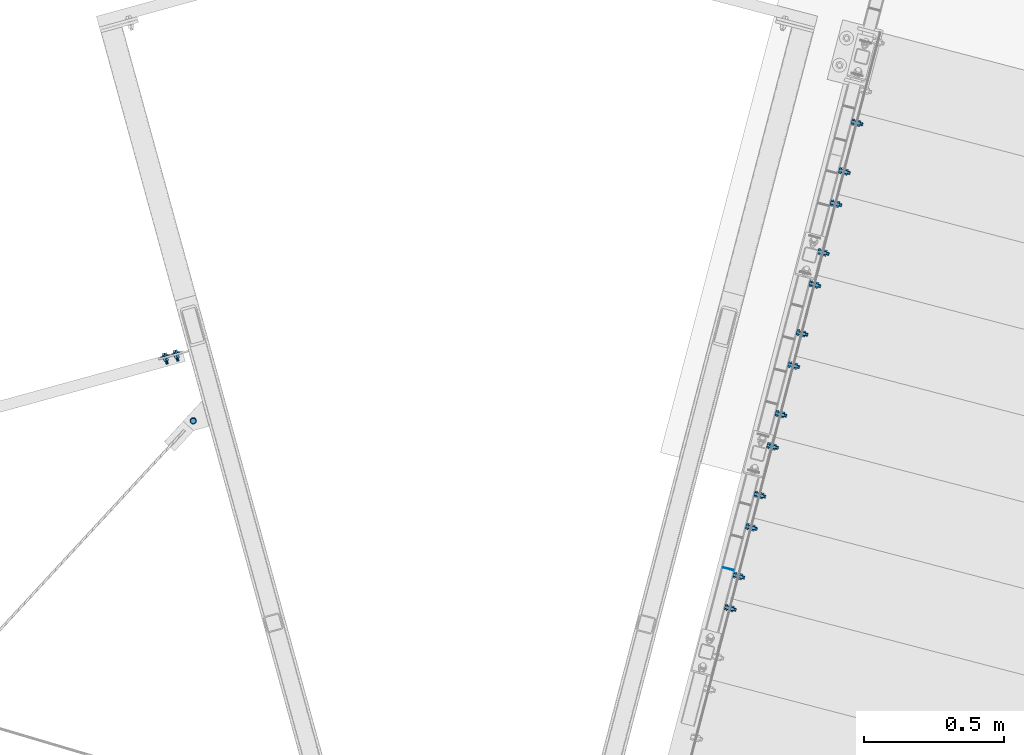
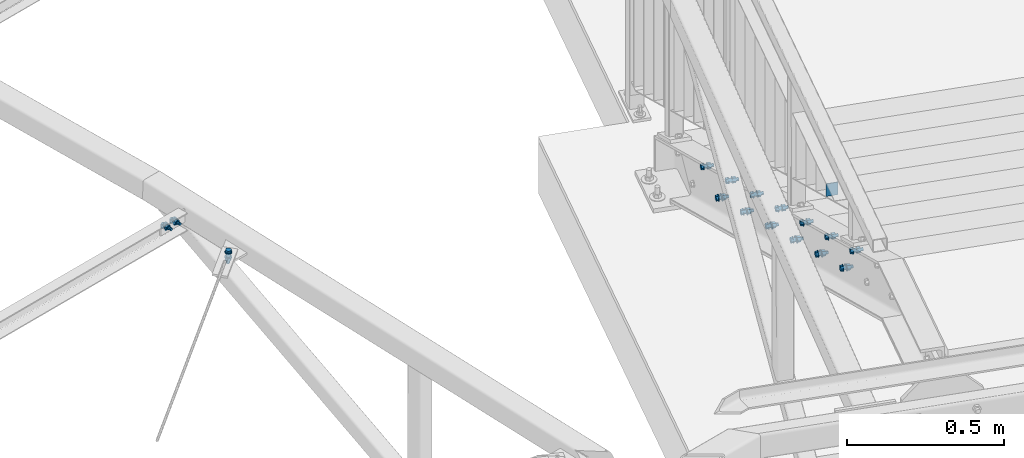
# One storey, part 161 of 169: 15 mechanical fasteners, 1 discrete accessory, 10 elements without a shape of their own.
"""IFC2X3 building model written with IfcOpenShell, lengths in millimetres."""

from ifc_helpers import new_model, si_unit, frame, frame_2d, origin_with_axes, origin_2d_with_axis, place, context, subcontext, project, spatial, polyline, circle_curve, parameter, trimmed, segment, composite_curve, circle, outline, extrude, clip, halfspace, source, transform, mapped, material, type_object, element, aggregate, save


model = new_model("IFC2X3")

# Units and contexts
model_context = context("Model", 3, precision=1e-05, world=origin_with_axes())
body_context = subcontext(model_context, "Body", "Model", "MODEL_VIEW")
ifc_project = project(units=[si_unit("LENGTHUNIT", "METRE", prefix="MILLI"), si_unit("AREAUNIT", "SQUARE_METRE"), si_unit("VOLUMEUNIT", "CUBIC_METRE"), si_unit("MASSUNIT", "GRAM", prefix="KILO"), si_unit("TIMEUNIT", "SECOND"), si_unit("PLANEANGLEUNIT", "RADIAN"), si_unit("SOLIDANGLEUNIT", "STERADIAN"), si_unit("THERMODYNAMICTEMPERATUREUNIT", "DEGREE_CELSIUS"), si_unit("LUMINOUSINTENSITYUNIT", "LUMEN")], contexts=[model_context])

# Site, building, storey
site_placement = place(None, origin_with_axes())
site = spatial("IfcSite", under=ifc_project, at=site_placement, Name="Undefined", CompositionType="ELEMENT")
building_placement = place(site_placement, origin_with_axes())
building = spatial("IfcBuilding", under=site, at=building_placement, Name="Undefined", CompositionType="ELEMENT")
storey_placement = place(building_placement, origin_with_axes())
storey = spatial("IfcBuildingStorey", under=building, at=storey_placement, Name="Undefined", CompositionType="ELEMENT", Elevation=0.0)

# Assembly, discrete accessory
assembly_1_placement = place(storey_placement, origin_with_axes())
assembly_1 = element("IfcElementAssembly", 1, at=assembly_1_placement, inside=storey, Name="Steel Assembly", AssemblyPlace="NOTDEFINED", PredefinedType="RIGID_FRAME")
ifc_material_1 = material(Name="STEEL/S235")
discrete_accessory_type_1 = type_object("IfcDiscreteAccessoryType", Name="PORĘCZ")
discrete_accessory_placement = place(assembly_1_placement, frame((-10676.179950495, 19331.5593978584, 13865.5637327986), z_axis=(-0.252628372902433, -0.967563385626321, 0.0), x_axis=(-2.54700353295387e-10, 0.0, -1.0)))
discrete_accessory = element("IfcDiscreteAccessory", 2, at=discrete_accessory_placement, type_object=discrete_accessory_type_1, material=ifc_material_1, Name="PORĘCZ", ObjectType="BL40*3", context=body_context, shape_type="Clipping", body=[
    clip(clip(extrude(outline(polyline([(46.3262382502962, -19.9999999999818), (-3.35387496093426, -19.9999999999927), (-3.35387497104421, 19.9999999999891), (46.3262382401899, 20.0), (46.3262382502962, -19.9999999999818)])), frame((1.81898940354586e-12, -1.77635442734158e-15, -1.50000000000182), z_axis=(0.0, 0.0, 1.0), x_axis=(1.0, 0.0, 0.0)), (0.0, 0.0, 1.0), 3.0), halfspace(frame((-3.3538752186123, 999.999999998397, 1.44846126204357e-08), z_axis=(1.0, 0.0, 0.0), x_axis=(-2.54700353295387e-10, 0.0, -1.0)), True)), halfspace(frame((46.6557223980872, 999.99999999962, -0.66552116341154), z_axis=(-0.89618489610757, 8.07050632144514e-16, -0.443680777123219), x_axis=(-0.443680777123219, 6.25441316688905e-11, 0.89618489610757)), True)),
])
aggregate(assembly_1, [discrete_accessory])

# Assembly, mechanical fastener
assembly_2_placement = place(storey_placement, origin_with_axes())
assembly_2 = element("IfcElementAssembly", 3, at=assembly_2_placement, inside=storey, Name="Steel Assembly", AssemblyPlace="NOTDEFINED", PredefinedType="RIGID_FRAME")
ifc_material_2 = material(Name="Undefined")
discrete_accessory_type_2 = type_object("IfcDiscreteAccessoryType", Name="Bolt assembly")
shared_shape_1 = source(origin_with_axes(), body_context, "Body", "SweptSolid", [
    extrude(circle(Radius=7.5, at=origin_2d_with_axis()), frame((0.0, -7.40000057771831, 0.0), z_axis=(0.0, 1.0, 0.0), x_axis=(1.0, 0.0, 0.0)), (0.0, 0.0, 1.0), 7.5),
    extrude(circle(Radius=7.5, at=origin_2d_with_axis()), frame((0.0, -0.100000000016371, 0.0), z_axis=(0.0, 1.0, 0.0), x_axis=(1.0, 0.0, 0.0)), (0.0, 0.0, 1.0), 3.1),
    extrude(outline(polyline([(10.39230484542, 0.0), (5.19615242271, 9.00000000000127), (-5.19615242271, 9.00000000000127), (-10.39230484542, 0.0), (-5.19615242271, -9.00000000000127), (5.19615242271, -9.00000000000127), (10.39230484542, 0.0)])), frame((0.0, -17.5000005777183, 0.0), z_axis=(0.0, 1.0, 0.0), x_axis=(1.0, 0.0, 0.0)), (0.0, 0.0, 1.0), 7.5),
    extrude(circle(Radius=6.0, at=origin_2d_with_axis()), frame((0.0, -10.0, 0.0), z_axis=(0.0, 1.0, 0.0), x_axis=(1.0, 0.0, 0.0)), (0.0, 0.0, 1.0), 35.0),
    extrude(circle(Radius=12.0, at=origin_2d_with_axis()), frame((0.0, -10.0, 0.0), z_axis=(0.0, 1.0, 0.0), x_axis=(1.0, 0.0, 0.0)), (0.0, 0.0, 1.0), 2.5),
    extrude(circle(Radius=12.0, at=origin_2d_with_axis()), frame((0.0, 2.99999999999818, 0.0), z_axis=(0.0, 1.0, 0.0), x_axis=(1.0, 0.0, 0.0)), (0.0, 0.0, 1.0), 2.5),
    extrude(outline(polyline([(10.96965511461, 0.0), (5.484827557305, 9.50000000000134), (-5.484827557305, 9.50000000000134), (-10.96965511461, 0.0), (-5.484827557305, -9.50000000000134), (5.484827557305, -9.50000000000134), (10.96965511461, 0.0)])), frame((0.0, 5.50000000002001, 0.0), z_axis=(0.0, 1.0, 0.0), x_axis=(1.0, 0.0, 0.0)), (0.0, 0.0, 1.0), 10.0),
])
mechanical_fastener_1_placement = place(assembly_2_placement, frame((-10738.5536752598, 18934.3334977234, 13705.5944414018), z_axis=(-2.54700353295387e-10, 0.0, -1.0), x_axis=(0.252628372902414, 0.967563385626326, 0.0)))
mechanical_fastener_1 = element("IfcMechanicalFastener", 4, at=mechanical_fastener_1_placement, type_object=discrete_accessory_type_2, material=ifc_material_2, Name="Bolt assembly", NominalDiameter=12.0, NominalLength=35.0, context=body_context, shape_type="MappedRepresentation", body=[
    mapped(shared_shape_1, transform((265.000000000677, 1.20053300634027e-10, 15.0))),
])
aggregate(assembly_2, [mechanical_fastener_1])

assembly_3_placement = place(storey_placement, origin_with_axes())
assembly_3 = element("IfcElementAssembly", 5, at=assembly_3_placement, inside=storey, Name="Steel Assembly", AssemblyPlace="NOTDEFINED", PredefinedType="RIGID_FRAME")
mechanical_fastener_2_placement = place(assembly_3_placement, frame((-10663.0024700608, 19223.6936318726, 13558.1828582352), z_axis=(-2.54700353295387e-10, 0.0, -1.0), x_axis=(0.252628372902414, 0.967563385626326, 0.0)))
mechanical_fastener_2 = element("IfcMechanicalFastener", 6, at=mechanical_fastener_2_placement, type_object=discrete_accessory_type_2, material=ifc_material_2, Name="Bolt assembly", NominalDiameter=12.0, NominalLength=35.0, context=body_context, shape_type="MappedRepresentation", body=[
    mapped(shared_shape_1, transform((265.000000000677, 1.20053300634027e-10, 15.0))),
])

assembly_4_placement = place(storey_placement, origin_with_axes())
assembly_4 = element("IfcElementAssembly", 7, at=assembly_4_placement, inside=storey, Name="Steel Assembly", AssemblyPlace="NOTDEFINED", PredefinedType="RIGID_FRAME")
mechanical_fastener_3_placement = place(assembly_4_placement, frame((-10587.4512648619, 19513.0537660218, 13410.7712750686), z_axis=(-2.54700353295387e-10, 0.0, -1.0), x_axis=(0.252628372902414, 0.967563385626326, 0.0)))
mechanical_fastener_3 = element("IfcMechanicalFastener", 8, at=mechanical_fastener_3_placement, type_object=discrete_accessory_type_2, material=ifc_material_2, Name="Bolt assembly", NominalDiameter=12.0, NominalLength=35.0, context=body_context, shape_type="MappedRepresentation", body=[
    mapped(shared_shape_1, transform((265.000000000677, 1.20053300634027e-10, 15.0))),
])

assembly_5_placement = place(storey_placement, origin_with_axes())
assembly_5 = element("IfcElementAssembly", 9, at=assembly_5_placement, inside=storey, Name="Steel Assembly", AssemblyPlace="NOTDEFINED", PredefinedType="RIGID_FRAME")
mechanical_fastener_4_placement = place(assembly_5_placement, frame((-10511.900059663, 19802.413900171, 13263.3596919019), z_axis=(-2.54700353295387e-10, 0.0, -1.0), x_axis=(0.252628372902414, 0.967563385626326, 0.0)))
mechanical_fastener_4 = element("IfcMechanicalFastener", 10, at=mechanical_fastener_4_placement, type_object=discrete_accessory_type_2, material=ifc_material_2, Name="Bolt assembly", NominalDiameter=12.0, NominalLength=35.0, context=body_context, shape_type="MappedRepresentation", body=[
    mapped(shared_shape_1, transform((265.000000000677, 1.20053300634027e-10, 15.0))),
])

assembly_6_placement = place(storey_placement, origin_with_axes())
assembly_6 = element("IfcElementAssembly", 11, at=assembly_6_placement, inside=storey, Name="Steel Assembly", AssemblyPlace="NOTDEFINED", PredefinedType="RIGID_FRAME")
mechanical_fastener_5_placement = place(assembly_6_placement, frame((-10436.3488544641, 20091.7740343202, 13115.9481087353), z_axis=(-2.54700353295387e-10, 0.0, -1.0), x_axis=(0.252628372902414, 0.967563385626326, 0.0)))
mechanical_fastener_5 = element("IfcMechanicalFastener", 12, at=mechanical_fastener_5_placement, type_object=discrete_accessory_type_2, material=ifc_material_2, Name="Bolt assembly", NominalDiameter=12.0, NominalLength=35.0, context=body_context, shape_type="MappedRepresentation", body=[
    mapped(shared_shape_1, transform((265.000000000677, 1.20053300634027e-10, 15.0))),
])

assembly_7_placement = place(storey_placement, origin_with_axes())
assembly_7 = element("IfcElementAssembly", 13, at=assembly_7_placement, inside=storey, Name="Steel Assembly", AssemblyPlace="NOTDEFINED", PredefinedType="RIGID_FRAME")
mechanical_fastener_6_placement = place(assembly_7_placement, frame((-10360.7976492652, 20381.1341684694, 12968.5365255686), z_axis=(-2.54700353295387e-10, 0.0, -1.0), x_axis=(0.252628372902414, 0.967563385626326, 0.0)))
mechanical_fastener_6 = element("IfcMechanicalFastener", 14, at=mechanical_fastener_6_placement, type_object=discrete_accessory_type_2, material=ifc_material_2, Name="Bolt assembly", NominalDiameter=12.0, NominalLength=35.0, context=body_context, shape_type="MappedRepresentation", body=[
    mapped(shared_shape_1, transform((265.000000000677, 1.20053300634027e-10, 15.0))),
])

assembly_8_placement = place(storey_placement, origin_with_axes())
assembly_8 = element("IfcElementAssembly", 15, at=assembly_8_placement, inside=storey, Name="Steel Assembly", AssemblyPlace="NOTDEFINED", PredefinedType="RIGID_FRAME")
mechanical_fastener_7_placement = place(assembly_8_placement, frame((-10285.2464440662, 20670.4943026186, 12821.124942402), z_axis=(-2.54700353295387e-10, 0.0, -1.0), x_axis=(0.252628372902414, 0.967563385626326, 0.0)))
mechanical_fastener_7 = element("IfcMechanicalFastener", 16, at=mechanical_fastener_7_placement, type_object=discrete_accessory_type_2, material=ifc_material_2, Name="Bolt assembly", NominalDiameter=12.0, NominalLength=35.0, context=body_context, shape_type="MappedRepresentation", body=[
    mapped(shared_shape_1, transform((265.000000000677, 1.20053300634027e-10, 15.0))),
])

# Mechanical fastener
shared_shape_2 = source(origin_with_axes(), body_context, "Body", "SweptSolid", [
    extrude(circle(Radius=7.5, at=origin_2d_with_axis()), frame((0.0, -7.40000057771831, 0.0), z_axis=(0.0, 1.0, 0.0), x_axis=(1.0, 0.0, 0.0)), (0.0, 0.0, 1.0), 7.5),
    extrude(outline(composite_curve([segment(polyline([(-10.0, 7.5), (10.0, 7.5)]), True, "CONTINUOUS"), segment(trimmed(circle_curve(frame_2d((10.0, 0.0), x_axis=(0.0, 1.0)), 7.5), [parameter(0.0)], [parameter(3.14159265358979)], False, "PARAMETER"), True, "CONTINUOUS"), segment(polyline([(10.0, -7.5), (-10.0, -7.5)]), True, "CONTINUOUS"), segment(trimmed(circle_curve(frame_2d((-10.0, 0.0), x_axis=(0.0, -1.0)), 7.5), [parameter(0.0)], [parameter(3.14159265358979)], False, "PARAMETER"), True, "DISCONTINUOUS")], self_intersect=False)), frame((0.0, -0.100000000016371, 0.0), z_axis=(0.0, 1.0, 0.0), x_axis=(1.0, 0.0, 0.0)), (0.0, 0.0, 1.0), 3.1),
    extrude(outline(polyline([(10.39230484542, 0.0), (5.19615242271, 9.00000000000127), (-5.19615242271, 9.00000000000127), (-10.39230484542, 0.0), (-5.19615242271, -9.00000000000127), (5.19615242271, -9.00000000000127), (10.39230484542, 0.0)])), frame((0.0, -17.5000005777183, 0.0), z_axis=(0.0, 1.0, 0.0), x_axis=(1.0, 0.0, 0.0)), (0.0, 0.0, 1.0), 7.5),
    extrude(circle(Radius=6.0, at=origin_2d_with_axis()), frame((0.0, -10.0, 0.0), z_axis=(0.0, 1.0, 0.0), x_axis=(1.0, 0.0, 0.0)), (0.0, 0.0, 1.0), 35.0),
    extrude(circle(Radius=12.0, at=origin_2d_with_axis()), frame((0.0, -10.0, 0.0), z_axis=(0.0, 1.0, 0.0), x_axis=(1.0, 0.0, 0.0)), (0.0, 0.0, 1.0), 2.5),
    extrude(circle(Radius=12.0, at=origin_2d_with_axis()), frame((0.0, 2.99999999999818, 0.0), z_axis=(0.0, 1.0, 0.0), x_axis=(1.0, 0.0, 0.0)), (0.0, 0.0, 1.0), 2.5),
    extrude(outline(polyline([(10.96965511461, 0.0), (5.484827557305, 9.50000000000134), (-5.484827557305, 9.50000000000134), (-10.96965511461, 0.0), (-5.484827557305, -9.50000000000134), (5.484827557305, -9.50000000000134), (10.96965511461, 0.0)])), frame((0.0, 5.50000000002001, 0.0), z_axis=(0.0, 1.0, 0.0), x_axis=(1.0, 0.0, 0.0)), (0.0, 0.0, 1.0), 10.0),
])
mechanical_fastener_8_placement = place(assembly_3_placement, frame((-10663.0024700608, 19223.6936318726, 13558.1828582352), z_axis=(-2.54700353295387e-10, 0.0, -1.0), x_axis=(0.252628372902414, 0.967563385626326, 0.0)))
mechanical_fastener_8 = element("IfcMechanicalFastener", 17, at=mechanical_fastener_8_placement, type_object=discrete_accessory_type_2, material=ifc_material_2, Name="Bolt assembly", NominalDiameter=12.0, NominalLength=35.0, context=body_context, shape_type="MappedRepresentation", body=[
    mapped(shared_shape_2, transform((85.0000000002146, 3.63797880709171e-11, 15.0))),
])

aggregate(assembly_3, [mechanical_fastener_8, mechanical_fastener_2])

shared_shape_3 = source(origin_with_axes(), body_context, "Body", "SweptSolid", [
    extrude(circle(Radius=7.5, at=origin_2d_with_axis()), frame((0.0, -7.40000057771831, 0.0), z_axis=(0.0, 1.0, 0.0), x_axis=(1.0, 0.0, 0.0)), (0.0, 0.0, 1.0), 7.5),
    extrude(outline(composite_curve([segment(polyline([(-10.0, 7.5), (10.0, 7.5)]), True, "CONTINUOUS"), segment(trimmed(circle_curve(frame_2d((10.0, 0.0), x_axis=(0.0, 1.0)), 7.5), [parameter(0.0)], [parameter(3.14159265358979)], False, "PARAMETER"), True, "CONTINUOUS"), segment(polyline([(10.0, -7.5), (-10.0, -7.5)]), True, "CONTINUOUS"), segment(trimmed(circle_curve(frame_2d((-10.0, 0.0), x_axis=(0.0, -1.0)), 7.5), [parameter(0.0)], [parameter(3.14159265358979)], False, "PARAMETER"), True, "DISCONTINUOUS")], self_intersect=False)), frame((0.0, -0.100000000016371, 0.0), z_axis=(0.0, 1.0, 0.0), x_axis=(1.0, 0.0, 0.0)), (0.0, 0.0, 1.0), 3.1),
    extrude(outline(polyline([(10.39230484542, 0.0), (5.19615242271, 9.00000000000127), (-5.19615242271, 9.00000000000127), (-10.39230484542, 0.0), (-5.19615242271, -9.00000000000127), (5.19615242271, -9.00000000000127), (10.39230484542, 0.0)])), frame((0.0, -17.5000005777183, 0.0), z_axis=(0.0, 1.0, 0.0), x_axis=(1.0, 0.0, 0.0)), (0.0, 0.0, 1.0), 7.5),
    extrude(circle(Radius=6.0, at=origin_2d_with_axis()), frame((0.0, -10.0, 0.0), z_axis=(0.0, 1.0, 0.0), x_axis=(1.0, 0.0, 0.0)), (0.0, 0.0, 1.0), 35.0),
    extrude(circle(Radius=12.0, at=origin_2d_with_axis()), frame((0.0, -10.0, 0.0), z_axis=(0.0, 1.0, 0.0), x_axis=(1.0, 0.0, 0.0)), (0.0, 0.0, 1.0), 2.5),
    extrude(circle(Radius=12.0, at=origin_2d_with_axis()), frame((0.0, 2.99999999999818, 0.0), z_axis=(0.0, 1.0, 0.0), x_axis=(1.0, 0.0, 0.0)), (0.0, 0.0, 1.0), 2.5),
    extrude(outline(polyline([(10.96965511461, 0.0), (5.484827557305, 9.50000000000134), (-5.484827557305, 9.50000000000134), (-10.96965511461, 0.0), (-5.484827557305, -9.50000000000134), (5.484827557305, -9.50000000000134), (10.96965511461, 0.0)])), frame((0.0, 5.50000000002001, 0.0), z_axis=(0.0, 1.0, 0.0), x_axis=(1.0, 0.0, 0.0)), (0.0, 0.0, 1.0), 10.0),
])
mechanical_fastener_9_placement = place(assembly_4_placement, frame((-10587.4512648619, 19513.0537660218, 13410.7712750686), z_axis=(-2.54700353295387e-10, 0.0, -1.0), x_axis=(0.252628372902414, 0.967563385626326, 0.0)))
mechanical_fastener_9 = element("IfcMechanicalFastener", 18, at=mechanical_fastener_9_placement, type_object=discrete_accessory_type_2, material=ifc_material_2, Name="Bolt assembly", NominalDiameter=12.0, NominalLength=35.0, context=body_context, shape_type="MappedRepresentation", body=[
    mapped(shared_shape_3, transform((85.0000000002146, 3.63797880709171e-11, 15.0))),
])

aggregate(assembly_4, [mechanical_fastener_9, mechanical_fastener_3])

shared_shape_4 = source(origin_with_axes(), body_context, "Body", "SweptSolid", [
    extrude(circle(Radius=7.5, at=origin_2d_with_axis()), frame((0.0, -7.40000057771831, 0.0), z_axis=(0.0, 1.0, 0.0), x_axis=(1.0, 0.0, 0.0)), (0.0, 0.0, 1.0), 7.5),
    extrude(outline(composite_curve([segment(polyline([(-10.0, 7.5), (10.0, 7.5)]), True, "CONTINUOUS"), segment(trimmed(circle_curve(frame_2d((10.0, 0.0), x_axis=(0.0, 1.0)), 7.5), [parameter(0.0)], [parameter(3.14159265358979)], False, "PARAMETER"), True, "CONTINUOUS"), segment(polyline([(10.0, -7.5), (-10.0, -7.5)]), True, "CONTINUOUS"), segment(trimmed(circle_curve(frame_2d((-10.0, 0.0), x_axis=(0.0, -1.0)), 7.5), [parameter(0.0)], [parameter(3.14159265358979)], False, "PARAMETER"), True, "DISCONTINUOUS")], self_intersect=False)), frame((0.0, -0.100000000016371, 0.0), z_axis=(0.0, 1.0, 0.0), x_axis=(1.0, 0.0, 0.0)), (0.0, 0.0, 1.0), 3.1),
    extrude(outline(polyline([(10.39230484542, 0.0), (5.19615242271, 9.00000000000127), (-5.19615242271, 9.00000000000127), (-10.39230484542, 0.0), (-5.19615242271, -9.00000000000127), (5.19615242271, -9.00000000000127), (10.39230484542, 0.0)])), frame((0.0, -17.5000005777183, 0.0), z_axis=(0.0, 1.0, 0.0), x_axis=(1.0, 0.0, 0.0)), (0.0, 0.0, 1.0), 7.5),
    extrude(circle(Radius=6.0, at=origin_2d_with_axis()), frame((0.0, -10.0, 0.0), z_axis=(0.0, 1.0, 0.0), x_axis=(1.0, 0.0, 0.0)), (0.0, 0.0, 1.0), 35.0),
    extrude(circle(Radius=12.0, at=origin_2d_with_axis()), frame((0.0, -10.0, 0.0), z_axis=(0.0, 1.0, 0.0), x_axis=(1.0, 0.0, 0.0)), (0.0, 0.0, 1.0), 2.5),
    extrude(circle(Radius=12.0, at=origin_2d_with_axis()), frame((0.0, 2.99999999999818, 0.0), z_axis=(0.0, 1.0, 0.0), x_axis=(1.0, 0.0, 0.0)), (0.0, 0.0, 1.0), 2.5),
    extrude(outline(polyline([(10.96965511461, 0.0), (5.484827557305, 9.50000000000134), (-5.484827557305, 9.50000000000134), (-10.96965511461, 0.0), (-5.484827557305, -9.50000000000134), (5.484827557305, -9.50000000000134), (10.96965511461, 0.0)])), frame((0.0, 5.50000000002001, 0.0), z_axis=(0.0, 1.0, 0.0), x_axis=(1.0, 0.0, 0.0)), (0.0, 0.0, 1.0), 10.0),
])
mechanical_fastener_10_placement = place(assembly_5_placement, frame((-10511.900059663, 19802.413900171, 13263.3596919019), z_axis=(-2.54700353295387e-10, 0.0, -1.0), x_axis=(0.252628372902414, 0.967563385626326, 0.0)))
mechanical_fastener_10 = element("IfcMechanicalFastener", 19, at=mechanical_fastener_10_placement, type_object=discrete_accessory_type_2, material=ifc_material_2, Name="Bolt assembly", NominalDiameter=12.0, NominalLength=35.0, context=body_context, shape_type="MappedRepresentation", body=[
    mapped(shared_shape_4, transform((85.0000000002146, 3.63797880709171e-11, 15.0))),
])

aggregate(assembly_5, [mechanical_fastener_10, mechanical_fastener_4])

shared_shape_5 = source(origin_with_axes(), body_context, "Body", "SweptSolid", [
    extrude(circle(Radius=7.5, at=origin_2d_with_axis()), frame((0.0, -7.40000057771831, 0.0), z_axis=(0.0, 1.0, 0.0), x_axis=(1.0, 0.0, 0.0)), (0.0, 0.0, 1.0), 7.5),
    extrude(outline(composite_curve([segment(polyline([(-10.0, 7.5), (10.0, 7.5)]), True, "CONTINUOUS"), segment(trimmed(circle_curve(frame_2d((10.0, 0.0), x_axis=(0.0, 1.0)), 7.5), [parameter(0.0)], [parameter(3.14159265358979)], False, "PARAMETER"), True, "CONTINUOUS"), segment(polyline([(10.0, -7.5), (-10.0, -7.5)]), True, "CONTINUOUS"), segment(trimmed(circle_curve(frame_2d((-10.0, 0.0), x_axis=(0.0, -1.0)), 7.5), [parameter(0.0)], [parameter(3.14159265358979)], False, "PARAMETER"), True, "DISCONTINUOUS")], self_intersect=False)), frame((0.0, -0.100000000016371, 0.0), z_axis=(0.0, 1.0, 0.0), x_axis=(1.0, 0.0, 0.0)), (0.0, 0.0, 1.0), 3.1),
    extrude(outline(polyline([(10.39230484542, 0.0), (5.19615242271, 9.00000000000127), (-5.19615242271, 9.00000000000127), (-10.39230484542, 0.0), (-5.19615242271, -9.00000000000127), (5.19615242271, -9.00000000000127), (10.39230484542, 0.0)])), frame((0.0, -17.5000005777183, 0.0), z_axis=(0.0, 1.0, 0.0), x_axis=(1.0, 0.0, 0.0)), (0.0, 0.0, 1.0), 7.5),
    extrude(circle(Radius=6.0, at=origin_2d_with_axis()), frame((0.0, -10.0, 0.0), z_axis=(0.0, 1.0, 0.0), x_axis=(1.0, 0.0, 0.0)), (0.0, 0.0, 1.0), 35.0),
    extrude(circle(Radius=12.0, at=origin_2d_with_axis()), frame((0.0, -10.0, 0.0), z_axis=(0.0, 1.0, 0.0), x_axis=(1.0, 0.0, 0.0)), (0.0, 0.0, 1.0), 2.5),
    extrude(circle(Radius=12.0, at=origin_2d_with_axis()), frame((0.0, 2.99999999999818, 0.0), z_axis=(0.0, 1.0, 0.0), x_axis=(1.0, 0.0, 0.0)), (0.0, 0.0, 1.0), 2.5),
    extrude(outline(polyline([(10.96965511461, 0.0), (5.484827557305, 9.50000000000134), (-5.484827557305, 9.50000000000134), (-10.96965511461, 0.0), (-5.484827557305, -9.50000000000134), (5.484827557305, -9.50000000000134), (10.96965511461, 0.0)])), frame((0.0, 5.50000000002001, 0.0), z_axis=(0.0, 1.0, 0.0), x_axis=(1.0, 0.0, 0.0)), (0.0, 0.0, 1.0), 10.0),
])
mechanical_fastener_11_placement = place(assembly_6_placement, frame((-10436.3488544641, 20091.7740343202, 13115.9481087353), z_axis=(-2.54700353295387e-10, 0.0, -1.0), x_axis=(0.252628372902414, 0.967563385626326, 0.0)))
mechanical_fastener_11 = element("IfcMechanicalFastener", 20, at=mechanical_fastener_11_placement, type_object=discrete_accessory_type_2, material=ifc_material_2, Name="Bolt assembly", NominalDiameter=12.0, NominalLength=35.0, context=body_context, shape_type="MappedRepresentation", body=[
    mapped(shared_shape_5, transform((85.0000000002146, 3.63797880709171e-11, 15.0))),
])

aggregate(assembly_6, [mechanical_fastener_11, mechanical_fastener_5])

shared_shape_6 = source(origin_with_axes(), body_context, "Body", "SweptSolid", [
    extrude(circle(Radius=7.5, at=origin_2d_with_axis()), frame((0.0, -7.40000057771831, 0.0), z_axis=(0.0, 1.0, 0.0), x_axis=(1.0, 0.0, 0.0)), (0.0, 0.0, 1.0), 7.5),
    extrude(outline(composite_curve([segment(polyline([(-10.0, 7.5), (10.0, 7.5)]), True, "CONTINUOUS"), segment(trimmed(circle_curve(frame_2d((10.0, 0.0), x_axis=(0.0, 1.0)), 7.5), [parameter(0.0)], [parameter(3.14159265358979)], False, "PARAMETER"), True, "CONTINUOUS"), segment(polyline([(10.0, -7.5), (-10.0, -7.5)]), True, "CONTINUOUS"), segment(trimmed(circle_curve(frame_2d((-10.0, 0.0), x_axis=(0.0, -1.0)), 7.5), [parameter(0.0)], [parameter(3.14159265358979)], False, "PARAMETER"), True, "DISCONTINUOUS")], self_intersect=False)), frame((0.0, -0.100000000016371, 0.0), z_axis=(0.0, 1.0, 0.0), x_axis=(1.0, 0.0, 0.0)), (0.0, 0.0, 1.0), 3.1),
    extrude(outline(polyline([(10.39230484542, 0.0), (5.19615242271, 9.00000000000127), (-5.19615242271, 9.00000000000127), (-10.39230484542, 0.0), (-5.19615242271, -9.00000000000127), (5.19615242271, -9.00000000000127), (10.39230484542, 0.0)])), frame((0.0, -17.5000005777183, 0.0), z_axis=(0.0, 1.0, 0.0), x_axis=(1.0, 0.0, 0.0)), (0.0, 0.0, 1.0), 7.5),
    extrude(circle(Radius=6.0, at=origin_2d_with_axis()), frame((0.0, -10.0, 0.0), z_axis=(0.0, 1.0, 0.0), x_axis=(1.0, 0.0, 0.0)), (0.0, 0.0, 1.0), 35.0),
    extrude(circle(Radius=12.0, at=origin_2d_with_axis()), frame((0.0, -10.0, 0.0), z_axis=(0.0, 1.0, 0.0), x_axis=(1.0, 0.0, 0.0)), (0.0, 0.0, 1.0), 2.5),
    extrude(circle(Radius=12.0, at=origin_2d_with_axis()), frame((0.0, 2.99999999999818, 0.0), z_axis=(0.0, 1.0, 0.0), x_axis=(1.0, 0.0, 0.0)), (0.0, 0.0, 1.0), 2.5),
    extrude(outline(polyline([(10.96965511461, 0.0), (5.484827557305, 9.50000000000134), (-5.484827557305, 9.50000000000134), (-10.96965511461, 0.0), (-5.484827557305, -9.50000000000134), (5.484827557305, -9.50000000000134), (10.96965511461, 0.0)])), frame((0.0, 5.50000000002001, 0.0), z_axis=(0.0, 1.0, 0.0), x_axis=(1.0, 0.0, 0.0)), (0.0, 0.0, 1.0), 10.0),
])
mechanical_fastener_12_placement = place(assembly_7_placement, frame((-10360.7976492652, 20381.1341684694, 12968.5365255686), z_axis=(-2.54700353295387e-10, 0.0, -1.0), x_axis=(0.252628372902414, 0.967563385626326, 0.0)))
mechanical_fastener_12 = element("IfcMechanicalFastener", 21, at=mechanical_fastener_12_placement, type_object=discrete_accessory_type_2, material=ifc_material_2, Name="Bolt assembly", NominalDiameter=12.0, NominalLength=35.0, context=body_context, shape_type="MappedRepresentation", body=[
    mapped(shared_shape_6, transform((85.0000000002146, 3.63797880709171e-11, 15.0))),
])

aggregate(assembly_7, [mechanical_fastener_12, mechanical_fastener_6])

shared_shape_7 = source(origin_with_axes(), body_context, "Body", "SweptSolid", [
    extrude(circle(Radius=7.5, at=origin_2d_with_axis()), frame((0.0, -7.40000057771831, 0.0), z_axis=(0.0, 1.0, 0.0), x_axis=(1.0, 0.0, 0.0)), (0.0, 0.0, 1.0), 7.5),
    extrude(outline(composite_curve([segment(polyline([(-10.0, 7.5), (10.0, 7.5)]), True, "CONTINUOUS"), segment(trimmed(circle_curve(frame_2d((10.0, 0.0), x_axis=(0.0, 1.0)), 7.5), [parameter(0.0)], [parameter(3.14159265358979)], False, "PARAMETER"), True, "CONTINUOUS"), segment(polyline([(10.0, -7.5), (-10.0, -7.5)]), True, "CONTINUOUS"), segment(trimmed(circle_curve(frame_2d((-10.0, 0.0), x_axis=(0.0, -1.0)), 7.5), [parameter(0.0)], [parameter(3.14159265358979)], False, "PARAMETER"), True, "DISCONTINUOUS")], self_intersect=False)), frame((0.0, -0.100000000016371, 0.0), z_axis=(0.0, 1.0, 0.0), x_axis=(1.0, 0.0, 0.0)), (0.0, 0.0, 1.0), 3.1),
    extrude(outline(polyline([(10.39230484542, 0.0), (5.19615242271, 9.00000000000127), (-5.19615242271, 9.00000000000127), (-10.39230484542, 0.0), (-5.19615242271, -9.00000000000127), (5.19615242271, -9.00000000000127), (10.39230484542, 0.0)])), frame((0.0, -17.5000005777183, 0.0), z_axis=(0.0, 1.0, 0.0), x_axis=(1.0, 0.0, 0.0)), (0.0, 0.0, 1.0), 7.5),
    extrude(circle(Radius=6.0, at=origin_2d_with_axis()), frame((0.0, -10.0, 0.0), z_axis=(0.0, 1.0, 0.0), x_axis=(1.0, 0.0, 0.0)), (0.0, 0.0, 1.0), 35.0),
    extrude(circle(Radius=12.0, at=origin_2d_with_axis()), frame((0.0, -10.0, 0.0), z_axis=(0.0, 1.0, 0.0), x_axis=(1.0, 0.0, 0.0)), (0.0, 0.0, 1.0), 2.5),
    extrude(circle(Radius=12.0, at=origin_2d_with_axis()), frame((0.0, 2.99999999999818, 0.0), z_axis=(0.0, 1.0, 0.0), x_axis=(1.0, 0.0, 0.0)), (0.0, 0.0, 1.0), 2.5),
    extrude(outline(polyline([(10.96965511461, 0.0), (5.484827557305, 9.50000000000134), (-5.484827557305, 9.50000000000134), (-10.96965511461, 0.0), (-5.484827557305, -9.50000000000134), (5.484827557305, -9.50000000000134), (10.96965511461, 0.0)])), frame((0.0, 5.50000000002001, 0.0), z_axis=(0.0, 1.0, 0.0), x_axis=(1.0, 0.0, 0.0)), (0.0, 0.0, 1.0), 10.0),
])
mechanical_fastener_13_placement = place(assembly_8_placement, frame((-10285.2464440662, 20670.4943026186, 12821.124942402), z_axis=(-2.54700353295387e-10, 0.0, -1.0), x_axis=(0.252628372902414, 0.967563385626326, 0.0)))
mechanical_fastener_13 = element("IfcMechanicalFastener", 22, at=mechanical_fastener_13_placement, type_object=discrete_accessory_type_2, material=ifc_material_2, Name="Bolt assembly", NominalDiameter=12.0, NominalLength=35.0, context=body_context, shape_type="MappedRepresentation", body=[
    mapped(shared_shape_7, transform((85.0000000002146, 3.63797880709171e-11, 15.0))),
])

aggregate(assembly_8, [mechanical_fastener_13, mechanical_fastener_7])

# Assembly, mechanical fastener
assembly_9_placement = place(storey_placement, origin_with_axes())
assembly_9 = element("IfcElementAssembly", 23, at=assembly_9_placement, inside=storey, Name="Steel Assembly", AssemblyPlace="NOTDEFINED", PredefinedType="RIGID_FRAME")
shared_shape_8 = source(origin_with_axes(), body_context, "Body", "SweptSolid", [
    extrude(outline(composite_curve([segment(polyline([(-10.0, 6.0), (10.0, 6.0)]), True, "CONTINUOUS"), segment(trimmed(circle_curve(frame_2d((10.0, 0.0), x_axis=(0.0, 1.0)), 6.0), [parameter(0.0)], [parameter(3.14159265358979)], False, "PARAMETER"), True, "CONTINUOUS"), segment(polyline([(10.0, -6.0), (-10.0, -6.0)]), True, "CONTINUOUS"), segment(trimmed(circle_curve(frame_2d((-10.0, 0.0), x_axis=(0.0, -1.0)), 6.0), [parameter(0.0)], [parameter(3.14159265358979)], False, "PARAMETER"), True, "DISCONTINUOUS")], self_intersect=False)), frame((0.0, -0.100757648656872, 0.0), z_axis=(0.0, 1.0, 0.0), x_axis=(1.0, 0.0, 0.0)), (0.0, 0.0, 1.0), 6.1),
    extrude(outline(composite_curve([segment(polyline([(6.0, 10.0), (6.0, -10.0)]), True, "CONTINUOUS"), segment(trimmed(circle_curve(frame_2d((0.0, -10.0), x_axis=(1.0, 0.0)), 6.0), [parameter(0.0)], [parameter(3.14159265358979)], False, "PARAMETER"), True, "CONTINUOUS"), segment(polyline([(-6.0, -10.0), (-6.0, 10.0)]), True, "CONTINUOUS"), segment(trimmed(circle_curve(frame_2d((0.0, 10.0), x_axis=(-1.0, 0.0)), 6.0), [parameter(0.0)], [parameter(3.14159265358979)], False, "PARAMETER"), True, "DISCONTINUOUS")], self_intersect=False)), frame((0.0, -3.90199984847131, 0.0), z_axis=(0.0, 1.0, 0.0), x_axis=(1.0, 0.0, 0.0)), (0.0, 0.0, 1.0), 4.0),
    extrude(outline(polyline([(8.66025403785, 0.0), (4.330127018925, 7.50000000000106), (-4.330127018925, 7.50000000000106), (-8.66025403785, 0.0), (-4.330127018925, -7.50000000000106), (4.330127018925, -7.50000000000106), (8.66025403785, 0.0)])), frame((0.0, -12.4019999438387, 0.0), z_axis=(0.0, 1.0, 0.0), x_axis=(1.0, 0.0, 0.0)), (0.0, 0.0, 1.0), 6.4),
    extrude(circle(Radius=5.0, at=origin_2d_with_axis()), frame((0.0, -6.00199984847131, 0.0), z_axis=(0.0, 1.0, 0.0), x_axis=(1.0, 0.0, 0.0)), (0.0, 0.0, 1.0), 35.0),
    extrude(circle(Radius=10.0, at=origin_2d_with_axis()), frame((0.0, -6.00199984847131, 0.0), z_axis=(0.0, 1.0, 0.0), x_axis=(1.0, 0.0, 0.0)), (0.0, 0.0, 1.0), 2.0),
    extrude(circle(Radius=10.0, at=origin_2d_with_axis()), frame((0.0, 5.99924235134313, 0.0), z_axis=(0.0, 1.0, 0.0), x_axis=(1.0, 0.0, 0.0)), (0.0, 0.0, 1.0), 2.0),
    extrude(outline(polyline([(9.81495457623, 0.0), (4.907477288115, 8.5000000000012), (-4.907477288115, 8.5000000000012), (-9.81495457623, 0.0), (-4.907477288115, -8.5000000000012), (4.907477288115, -8.5000000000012), (9.81495457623, 0.0)])), frame((0.0, 7.99924235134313, 0.0), z_axis=(0.0, 1.0, 0.0), x_axis=(1.0, 0.0, 0.0)), (0.0, 0.0, 1.0), 8.0),
])
mechanical_fastener_14_placement = place(assembly_9_placement, frame((-12607.8679772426, 20113.4346023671, 13981.4988042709), z_axis=(-0.96424813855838, -0.265000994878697, 1.68875885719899e-08), x_axis=(0.000156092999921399, -0.000567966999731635, -0.999999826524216)))
mechanical_fastener_14 = element("IfcMechanicalFastener", 24, at=mechanical_fastener_14_placement, type_object=discrete_accessory_type_2, material=ifc_material_2, Name="Bolt assembly", NominalDiameter=10.0, NominalLength=35.0, context=body_context, shape_type="MappedRepresentation", body=[
    mapped(shared_shape_8, transform((34.9999999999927, -1.60071067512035e-10, 44.9999999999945))),
    mapped(shared_shape_8, transform((34.9999999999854, -2.7648638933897e-10, 84.9999999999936))),
])
aggregate(assembly_9, [mechanical_fastener_14])

assembly_10_placement = place(storey_placement, origin_with_axes())
assembly_10 = element("IfcElementAssembly", 25, at=assembly_10_placement, inside=storey, Name="Steel Assembly", AssemblyPlace="NOTDEFINED", PredefinedType="RIGID_FRAME")
shared_shape_9 = source(origin_with_axes(), body_context, "Body", "SweptSolid", [
    extrude(circle(Radius=7.5, at=origin_2d_with_axis()), frame((0.0, -4.10000000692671, 0.0), z_axis=(0.0, 1.0, 0.0), x_axis=(1.0, 0.0, 0.0)), (0.0, 0.0, 1.0), 8.1),
    extrude(circle(Radius=7.5, at=origin_2d_with_axis()), frame((0.0, -11.9000000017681, 0.0), z_axis=(0.0, 1.0, 0.0), x_axis=(1.0, 0.0, 0.0)), (0.0, 0.0, 1.0), 8.0),
    extrude(outline(polyline([(10.39230484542, 0.0), (5.19615242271, 9.00000000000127), (-5.19615242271, 9.00000000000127), (-10.39230484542, 0.0), (-5.19615242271, -9.00000000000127), (5.19615242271, -9.00000000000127), (10.39230484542, 0.0)])), frame((0.0, -22.5000000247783, 0.0), z_axis=(0.0, 1.0, 0.0), x_axis=(1.0, 0.0, 0.0)), (0.0, 0.0, 1.0), 7.5),
    extrude(circle(Radius=6.0, at=origin_2d_with_axis()), frame((0.0, -15.0000000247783, 0.0), z_axis=(0.0, 1.0, 0.0), x_axis=(1.0, 0.0, 0.0)), (0.0, 0.0, 1.0), 45.0),
    extrude(circle(Radius=12.0, at=origin_2d_with_axis()), frame((0.0, -15.0000000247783, 0.0), z_axis=(0.0, 1.0, 0.0), x_axis=(1.0, 0.0, 0.0)), (0.0, 0.0, 1.0), 3.0),
    extrude(circle(Radius=12.0, at=origin_2d_with_axis()), frame((0.0, 3.99999999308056, 0.0), z_axis=(0.0, 1.0, 0.0), x_axis=(1.0, 0.0, 0.0)), (0.0, 0.0, 1.0), 3.0),
    extrude(outline(polyline([(10.96965511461, 0.0), (5.484827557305, 9.50000000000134), (-5.484827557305, 9.50000000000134), (-10.96965511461, 0.0), (-5.484827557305, -9.50000000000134), (5.484827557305, -9.50000000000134), (10.96965511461, 0.0)])), frame((0.0, 6.99997856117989, 0.0), z_axis=(0.0, 1.0, 0.0), x_axis=(1.0, 0.0, 0.0)), (0.0, 0.0, 1.0), 10.0),
])
mechanical_fastener_15_placement = place(assembly_10_placement, frame((-12589.8088301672, 19861.1809686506, 13935.8512778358), z_axis=(0.734134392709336, -0.677679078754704, -0.0423999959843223), x_axis=(-0.678875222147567, -0.733779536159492, -0.026382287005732)))
mechanical_fastener_15 = element("IfcMechanicalFastener", 26, at=mechanical_fastener_15_placement, type_object=discrete_accessory_type_2, material=ifc_material_2, Name="Bolt assembly", NominalDiameter=12.0, NominalLength=45.0, context=body_context, shape_type="MappedRepresentation", body=[
    mapped(shared_shape_9, transform((0.0, 0.0, 0.0))),
])
aggregate(assembly_10, [mechanical_fastener_15])

save(model, "model.ifc")
